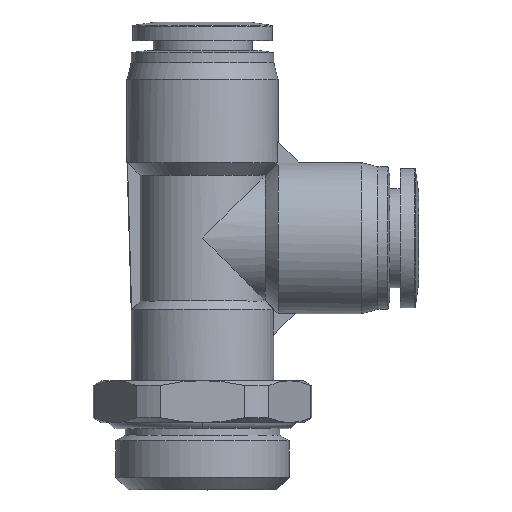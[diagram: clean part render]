
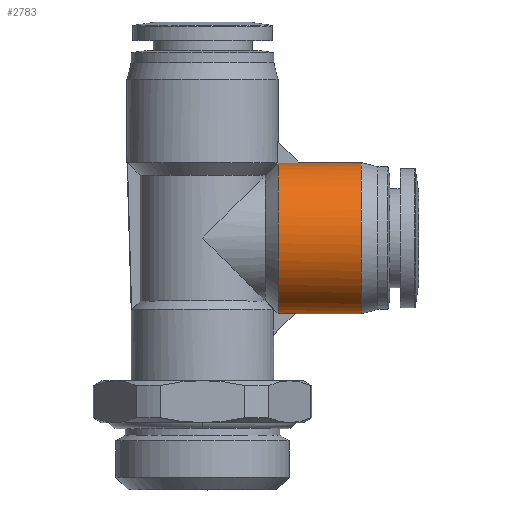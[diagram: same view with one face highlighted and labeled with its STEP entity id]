
A CAD part, top view. The second image highlights one B-rep face of the part: STEP entity #2783.
In plain terms, the highlighted cylindrical face has radius 9 mm (diameter 18 mm), a partial arc.
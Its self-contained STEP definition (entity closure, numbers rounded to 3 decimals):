
#19 = VERTEX_POINT ( 'NONE', #3407 ) ;
#112 = CARTESIAN_POINT ( 'NONE',  ( 11.056, 8.056, 1. ) ) ;
#134 = CARTESIAN_POINT ( 'NONE',  ( 11.056, 8.056, 1. ) ) ;
#144 = AXIS2_PLACEMENT_3D ( 'NONE', #5497, #5431, #2595 ) ;
#168 = ORIENTED_EDGE ( 'NONE', *, *, #453, .T. ) ;
#195 = CARTESIAN_POINT ( 'NONE',  ( 18.9, 26., 0. ) ) ;
#284 = CARTESIAN_POINT ( 'NONE',  ( 9.852, 25.944, 1. ) ) ;
#287 = VERTEX_POINT ( 'NONE', #1596 ) ;
#303 = CARTESIAN_POINT ( 'NONE',  ( 9., 11.816, 7.438 ) ) ;
#310 = CARTESIAN_POINT ( 'NONE',  ( 11., 8., 0. ) ) ;
#362 = CARTESIAN_POINT ( 'NONE',  ( 9., 10.184, 5.978 ) ) ;
#390 = CARTESIAN_POINT ( 'NONE',  ( 9., 8.177, 2.088 ) ) ;
#453 = EDGE_CURVE ( 'NONE', #5218, #287, #5130, .T. ) ;
#543 = ORIENTED_EDGE ( 'NONE', *, *, #2089, .F. ) ;
#555 = ORIENTED_EDGE ( 'NONE', *, *, #2662, .F. ) ;
#577 = LINE ( 'NONE', #4374, #1504 ) ;
#615 = CARTESIAN_POINT ( 'NONE',  ( 18.9, 18.178, 9. ) ) ;
#667 = CARTESIAN_POINT ( 'NONE',  ( 9., 15.905, 9. ) ) ;
#846 = CARTESIAN_POINT ( 'NONE',  ( 9., 14.811, 8.798 ) ) ;
#958 = B_SPLINE_CURVE_WITH_KNOTS ( 'NONE', 3,
 ( #4075, #284, #2651, #3578 ),
 .UNSPECIFIED., .F., .F.,
 ( 4, 4 ),
 ( 0., 1. ),
 .UNSPECIFIED. ) ;
#1078 = CARTESIAN_POINT ( 'NONE',  ( 18.9, 8., 0. ) ) ;
#1139 = CARTESIAN_POINT ( 'NONE',  ( 18.9, 8.234, 2.356 ) ) ;
#1189 = ORIENTED_EDGE ( 'NONE', *, *, #3373, .F. ) ;
#1200 = CARTESIAN_POINT ( 'NONE',  ( 18.9, 11.469, 7.197 ) ) ;
#1379 = CARTESIAN_POINT ( 'NONE',  ( 9., 25.944, 1. ) ) ;
#1504 = VECTOR ( 'NONE', #1876, 1000. ) ;
#1538 = CARTESIAN_POINT ( 'NONE',  ( 10.37, 8.056, 1. ) ) ;
#1596 = CARTESIAN_POINT ( 'NONE',  ( 9., 8.056, 1. ) ) ;
#1597 = CARTESIAN_POINT ( 'NONE',  ( 18.9, 9.136, 4.533 ) ) ;
#1602 = VERTEX_POINT ( 'NONE', #5284 ) ;
#1662 = CARTESIAN_POINT ( 'NONE',  ( 18.9, 14.644, 8.766 ) ) ;
#1707 = CARTESIAN_POINT ( 'NONE',  ( 9., 21.234, 8.017 ) ) ;
#1762 = CARTESIAN_POINT ( 'NONE',  ( 13.95, 8., 0. ) ) ;
#1770 = CARTESIAN_POINT ( 'NONE',  ( 9., 23.816, 5.978 ) ) ;
#1833 = ORIENTED_EDGE ( 'NONE', *, *, #6012, .T. ) ;
#1876 = DIRECTION ( 'NONE',  ( 1., 0., 0. ) ) ;
#2010 = CARTESIAN_POINT ( 'NONE',  ( 11., 8., 0. ) ) ;
#2089 = EDGE_CURVE ( 'NONE', #2728, #3626, #577, .T. ) ;
#2100 = CARTESIAN_POINT ( 'NONE',  ( 18.9, 24.197, 5.531 ) ) ;
#2239 = CARTESIAN_POINT ( 'NONE',  ( 9., 12.766, 8.017 ) ) ;
#2269 = CARTESIAN_POINT ( 'NONE',  ( 9., 19.189, 8.798 ) ) ;
#2492 = VERTEX_POINT ( 'NONE', #310 ) ;
#2561 = CYLINDRICAL_SURFACE ( 'NONE', #144, 9. ) ;
#2595 = DIRECTION ( 'NONE',  ( 0., 1., 0. ) ) ;
#2616 = VERTEX_POINT ( 'NONE', #2869 ) ;
#2651 = CARTESIAN_POINT ( 'NONE',  ( 10.704, 25.944, 1. ) ) ;
#2662 = EDGE_CURVE ( 'NONE', #1602, #287, #5132, .T. ) ;
#2674 = CARTESIAN_POINT ( 'NONE',  ( 11.556, 25.944, 1. ) ) ;
#2702 = CARTESIAN_POINT ( 'NONE',  ( 9., 18.095, 9. ) ) ;
#2728 = VERTEX_POINT ( 'NONE', #4485 ) ;
#2783 = ADVANCED_FACE ( 'NONE', ( #4518 ), #2561, .T. ) ;
#2869 = CARTESIAN_POINT ( 'NONE',  ( 18.9, 8., 0. ) ) ;
#2920 = B_SPLINE_CURVE_WITH_KNOTS ( 'NONE', 3,
 ( #195, #5929, #4417, #3892, #2100, #4853, #3428, #4018, #615, #5329, #1662, #3551, #1200, #5865, #1597, #1139, #3092, #1078 ),
 .UNSPECIFIED., .F., .F.,
 ( 4, 2, 2, 2, 2, 2, 2, 2, 4 ),
 ( 0., 0.062, 0.125, 0.187, 0.25, 0.312, 0.375, 0.438, 0.5 ),
 .UNSPECIFIED. ) ;
#3069 = B_SPLINE_CURVE_WITH_KNOTS ( 'NONE', 3,
 ( #2674, #4004, #4534, #5447 ),
 .UNSPECIFIED., .F., .F.,
 ( 4, 4 ),
 ( 0., 0.5 ),
 .UNSPECIFIED. ) ;
#3092 = CARTESIAN_POINT ( 'NONE',  ( 18.9, 8., 1.178 ) ) ;
#3138 = CARTESIAN_POINT ( 'NONE',  ( 9., 25.944, 1. ) ) ;
#3373 = EDGE_CURVE ( 'NONE', #5218, #19, #958, .T. ) ;
#3407 = CARTESIAN_POINT ( 'NONE',  ( 11.556, 25.944, 1. ) ) ;
#3428 = CARTESIAN_POINT ( 'NONE',  ( 18.9, 21.533, 7.864 ) ) ;
#3432 = ORIENTED_EDGE ( 'NONE', *, *, #4625, .F. ) ;
#3478 = CARTESIAN_POINT ( 'NONE',  ( 9., 25.823, 2.088 ) ) ;
#3551 = CARTESIAN_POINT ( 'NONE',  ( 18.9, 12.467, 7.864 ) ) ;
#3578 = CARTESIAN_POINT ( 'NONE',  ( 11.556, 25.944, 1. ) ) ;
#3626 = VERTEX_POINT ( 'NONE', #4999 ) ;
#3775 = ORIENTED_EDGE ( 'NONE', *, *, #5092, .F. ) ;
#3779 = CARTESIAN_POINT ( 'NONE',  ( 11., 8., 0.333 ) ) ;
#3888 = B_SPLINE_CURVE_WITH_KNOTS ( 'NONE', 3,
 ( #2010, #3779, #4303, #112 ),
 .UNSPECIFIED., .F., .F.,
 ( 4, 4 ),
 ( 0.5, 1. ),
 .UNSPECIFIED. ) ;
#3892 = CARTESIAN_POINT ( 'NONE',  ( 18.9, 24.864, 4.533 ) ) ;
#4004 = CARTESIAN_POINT ( 'NONE',  ( 11.518, 25.982, 0.667 ) ) ;
#4018 = CARTESIAN_POINT ( 'NONE',  ( 18.9, 19.356, 8.766 ) ) ;
#4075 = CARTESIAN_POINT ( 'NONE',  ( 9., 25.944, 1. ) ) ;
#4149 = CARTESIAN_POINT ( 'NONE',  ( 9., 24.497, 5.098 ) ) ;
#4303 = CARTESIAN_POINT ( 'NONE',  ( 11.018, 8.018, 0.667 ) ) ;
#4374 = CARTESIAN_POINT ( 'NONE',  ( 13.95, 26., 0. ) ) ;
#4386 = CARTESIAN_POINT ( 'NONE',  ( 9.685, 8.056, 1. ) ) ;
#4412 = EDGE_LOOP ( 'NONE', ( #3432, #1833, #3775, #543, #5221, #1189, #168, #555 ) ) ;
#4417 = CARTESIAN_POINT ( 'NONE',  ( 18.9, 25.766, 2.356 ) ) ;
#4485 = CARTESIAN_POINT ( 'NONE',  ( 11.5, 26., 0. ) ) ;
#4518 = FACE_OUTER_BOUND ( 'NONE', #4412, .T. ) ;
#4534 = CARTESIAN_POINT ( 'NONE',  ( 11.5, 26., 0.333 ) ) ;
#4562 = CARTESIAN_POINT ( 'NONE',  ( 9., 8.056, 1. ) ) ;
#4625 = EDGE_CURVE ( 'NONE', #2492, #1602, #3888, .T. ) ;
#4641 = LINE ( 'NONE', #1762, #5769 ) ;
#4853 = CARTESIAN_POINT ( 'NONE',  ( 18.9, 22.531, 7.197 ) ) ;
#4906 = CARTESIAN_POINT ( 'NONE',  ( 9., 22.184, 7.438 ) ) ;
#4999 = CARTESIAN_POINT ( 'NONE',  ( 18.9, 26., 0. ) ) ;
#5062 = CARTESIAN_POINT ( 'NONE',  ( 9., 25.5, 3.153 ) ) ;
#5087 = DIRECTION ( 'NONE',  ( 1., 0., 0. ) ) ;
#5092 = EDGE_CURVE ( 'NONE', #3626, #2616, #2920, .T. ) ;
#5130 = B_SPLINE_CURVE_WITH_KNOTS ( 'NONE', 3,
 ( #3138, #3478, #5062, #4149, #1770, #4906, #1707, #2269, #2702, #667, #846, #2239, #303, #362, #5602, #6065, #390, #4562 ),
 .UNSPECIFIED., .F., .F.,
 ( 4, 2, 2, 2, 2, 2, 2, 2, 4 ),
 ( 0., 0.125, 0.25, 0.375, 0.5, 0.625, 0.75, 0.875, 1. ),
 .UNSPECIFIED. ) ;
#5132 = B_SPLINE_CURVE_WITH_KNOTS ( 'NONE', 3,
 ( #134, #1538, #4386, #5331 ),
 .UNSPECIFIED., .F., .F.,
 ( 4, 4 ),
 ( 0., 1. ),
 .UNSPECIFIED. ) ;
#5218 = VERTEX_POINT ( 'NONE', #1379 ) ;
#5221 = ORIENTED_EDGE ( 'NONE', *, *, #5315, .F. ) ;
#5284 = CARTESIAN_POINT ( 'NONE',  ( 11.056, 8.056, 1. ) ) ;
#5315 = EDGE_CURVE ( 'NONE', #19, #2728, #3069, .T. ) ;
#5329 = CARTESIAN_POINT ( 'NONE',  ( 18.9, 15.822, 9. ) ) ;
#5331 = CARTESIAN_POINT ( 'NONE',  ( 9., 8.056, 1. ) ) ;
#5431 = DIRECTION ( 'NONE',  ( 1., 0., 0. ) ) ;
#5447 = CARTESIAN_POINT ( 'NONE',  ( 11.5, 26., 0. ) ) ;
#5497 = CARTESIAN_POINT ( 'NONE',  ( 13.95, 17., 0. ) ) ;
#5602 = CARTESIAN_POINT ( 'NONE',  ( 9., 9.503, 5.098 ) ) ;
#5769 = VECTOR ( 'NONE', #5087, 1000. ) ;
#5865 = CARTESIAN_POINT ( 'NONE',  ( 18.9, 9.803, 5.531 ) ) ;
#5929 = CARTESIAN_POINT ( 'NONE',  ( 18.9, 26., 1.178 ) ) ;
#6012 = EDGE_CURVE ( 'NONE', #2492, #2616, #4641, .T. ) ;
#6065 = CARTESIAN_POINT ( 'NONE',  ( 9., 8.5, 3.153 ) ) ;
